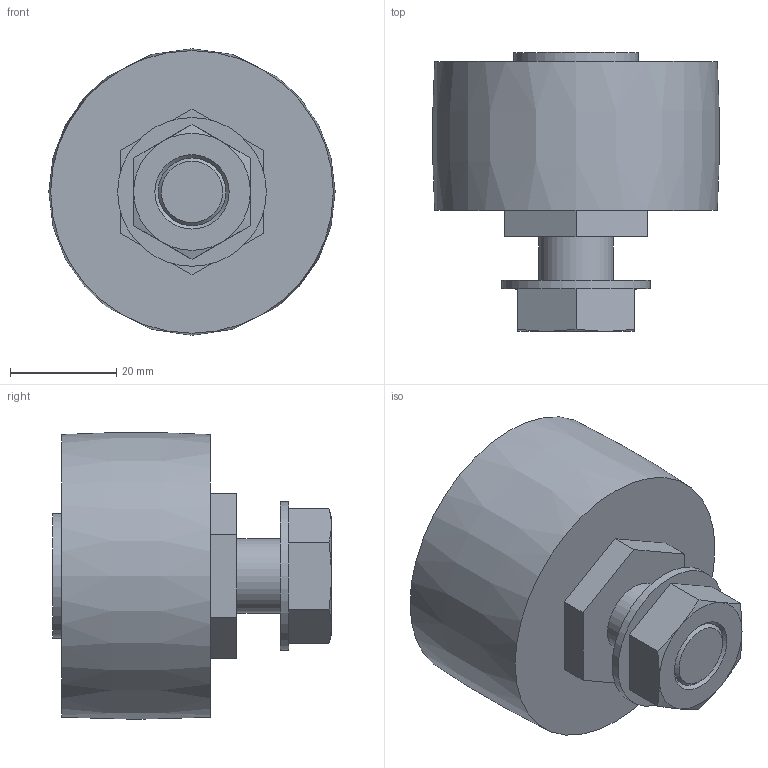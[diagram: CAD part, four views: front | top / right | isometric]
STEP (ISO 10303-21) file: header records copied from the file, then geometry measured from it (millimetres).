
FILE_DESCRIPTION( ( 'STEP AP203' ), '1' );
FILE_NAME( 'p:/temp/worker_105/temp/exporttempdir_6492_1176_68Dbf/format_1/SR54C.stp', '2021-09-29T07:16:12', ( 'License CC BY-ND 4.0' ), ( 'CADENAS' ), ' ', 'PARTsolutions', ' ' );
FILE_SCHEMA( ( 'CONFIG_CONTROL_DESIGN' ) );
Length unit declared in the file: millimetre
Products named in the file (2): SR54C; _SR54C_
Assembly tree (1 placements, depth 2):
  SR54C
    _SR54C_
Bounding box: 53.91 x 52.5 x 53.96 mm (x, y, z)
Volume: 72843 mm3; surface area: 11868 mm2
Topology: 1 solids, 1 shells, 39 faces, 86 edges, 56 vertices
Faces by surface type: plane 27, cone 8, cylinder 3, bspline 1
Full cylindrical faces by diameter (mm): 14 x1, 23.5 x1, 28 x1
Entity records: 1146 total; most frequent: CARTESIAN_POINT 258, DIRECTION 162, ORIENTED_EDGE 154, EDGE_CURVE 77, AXIS2_PLACEMENT_3D 57, VERTEX_POINT 53, EDGE_LOOP 52, LINE 48
